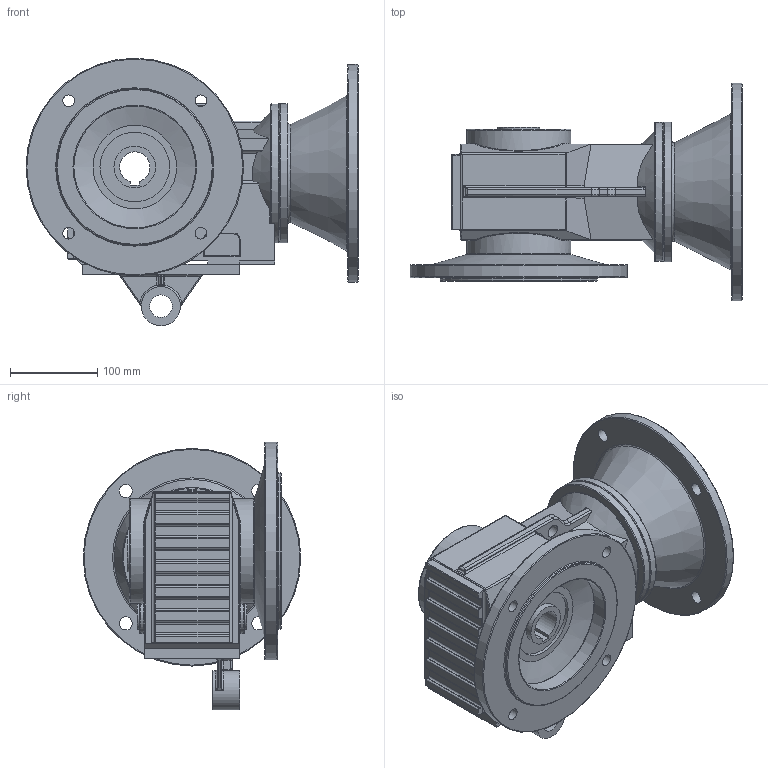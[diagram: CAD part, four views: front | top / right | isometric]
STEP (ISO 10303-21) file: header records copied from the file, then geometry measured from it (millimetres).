
FILE_DESCRIPTION((''),'2;1');
FILE_NAME('F:\PAWEŁ\ZLECENIA\2011 DualSystem\Przekładnie DK\001 Modele\DKAB40_\DK_40_STEP\DK_A_40_AT_AF_100_B5_L90,5.stp','2012-06-26T16:02:58',('admin'),(''),'Autodesk Inventor 2009','Autodesk Inventor 2009','');
FILE_SCHEMA(('AUTOMOTIVE_DESIGN { 1 0 10303 214 1 1 1 1 }'));
Length unit declared in the file: millimetre
Products named in the file (5): DK_A_40_AT_AF_100_B5_L90,5 (Poziom szczegółów1); DK_A_40; AF_F_40; AT_40; 100_B5_L90,5
Assembly tree (4 placements, depth 2):
  DK_A_40_AT_AF_100_B5_L90,5 (Poziom szczegółów1)
    DK_A_40
    AF_F_40
    AT_40
    100_B5_L90,5
Bounding box: 381.5 x 250 x 307.5 mm (x, y, z)
Volume: 6179310.6 mm3; surface area: 599955 mm2
Topology: 4 solids, 4 shells, 483 faces, 1149 edges, 685 vertices
Faces by surface type: cylinder 180, plane 130, bspline 100, torus 62, sphere 6, cone 5
Full cylindrical faces by diameter (mm): 8.376 x4, 10 x4, 15 x1, 26 x1, 30 x1, 45 x1, 48 x2, 80 x1, 110 x1, 140 x1, 160 x2, 180 x2, 250 x2
Entity records: 18459 total; most frequent: CARTESIAN_POINT 7575, DIRECTION 2267, ORIENTED_EDGE 2148, EDGE_CURVE 1074, AXIS2_PLACEMENT_3D 906, VERTEX_POINT 680, EDGE_LOOP 596, FACE_OUTER_BOUND 483
